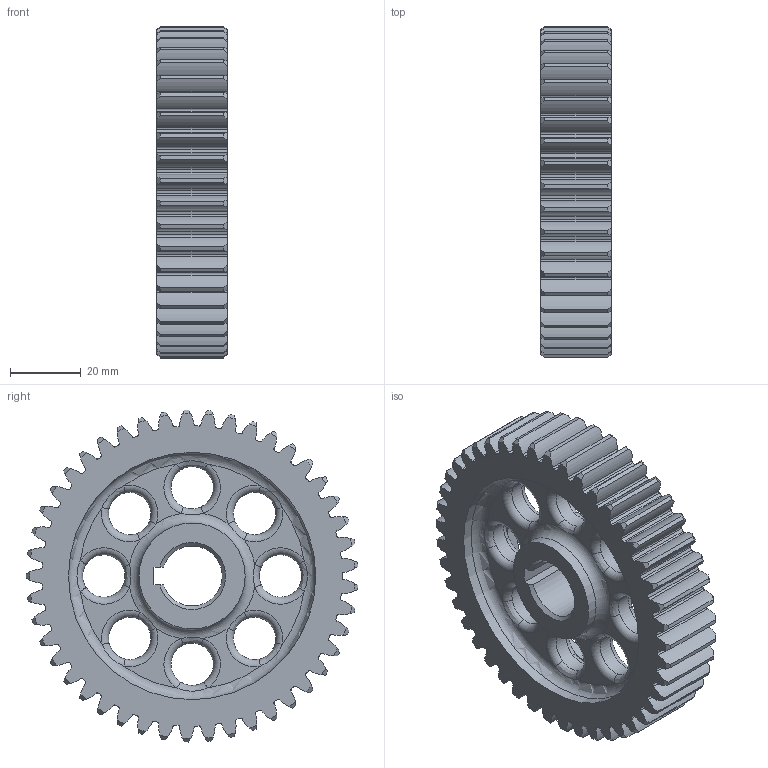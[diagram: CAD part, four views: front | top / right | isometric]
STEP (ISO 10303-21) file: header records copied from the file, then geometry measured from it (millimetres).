
FILE_DESCRIPTION(/* description */ (''),/* implementation_level */ '2;1');
FILE_NAME(/* name */ '',/* time_stamp */ '2025-03-10T16:32:18+09:00',/* author */ ('jhkim'),/* organization */ (''),/* preprocessor_version */ 'ST-DEVELOPER v20',/* originating_system */ 'Autodesk Inventor 2025',/* authorisation */ '');
FILE_SCHEMA (('AUTOMOTIVE_DESIGN { 1 0 10303 214 3 1 1 }'));
Length unit declared in the file: millimetre
Products named in the file (1): 스퍼기어
Bounding box: 20 x 93.92 x 93.98 mm (x, y, z)
Volume: 76912 mm3; surface area: 27264.6 mm2
Topology: 1 solids, 1 shells, 466 faces, 1370 edges, 892 vertices
Faces by surface type: cylinder 283, cone 92, torus 36, bspline 32, plane 23
Full cylindrical faces by diameter (mm): 12 x8, 30 x2, 70 x2
Entity records: 17079 total; most frequent: CARTESIAN_POINT 4425, DIRECTION 2814, ORIENTED_EDGE 2740, EDGE_CURVE 1370, AXIS2_PLACEMENT_3D 1261, VERTEX_POINT 892, CIRCLE 826, EDGE_LOOP 470
